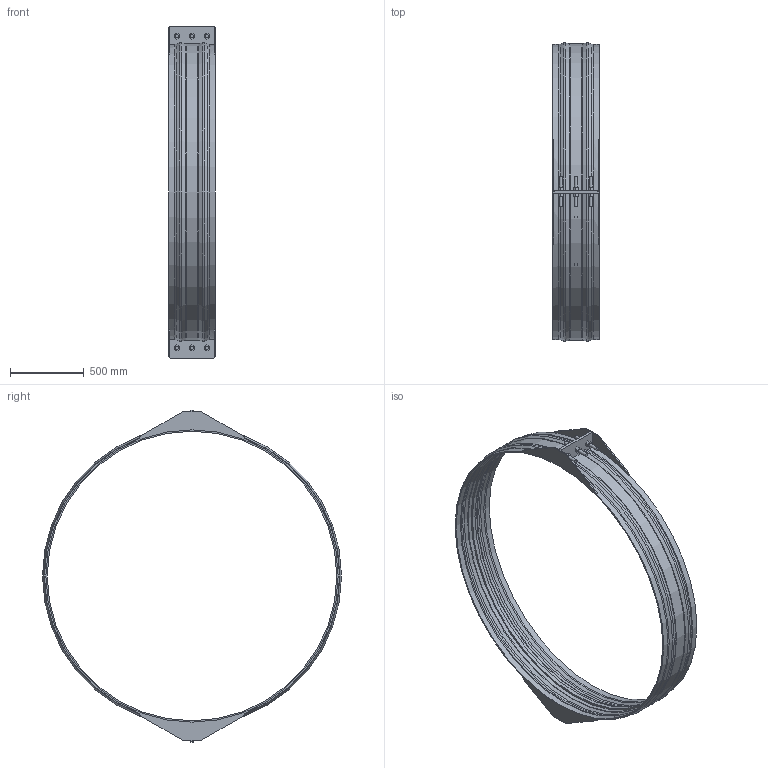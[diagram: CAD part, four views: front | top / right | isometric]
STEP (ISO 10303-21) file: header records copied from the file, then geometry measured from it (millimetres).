
FILE_DESCRIPTION(/* description */ ('VIC RESTRAINED COUPLING STYLE 233 (FLEX) (BRD)','CAx-IF Rec.Pracs.---Representation and Presentation of Product Manufacturing Information (PMI)---4.0---2014-10-13'),/* implementation_level */ '2;1');
FILE_NAME(/* name */ 'C:\Users\Vjadhav\Desktop\CAD for Inventor\Test for STEP\Vivek\Adsk_Inventor_Bolted Sleeve_iParts\STEP\Victaulic_VBSP_Coupling Flexible Restrained_Style 233 (BRD)\Victaulic_VBSP_Coupling Flexible Restrained_Style 233 (BRD)_100psi_78 (1950).stp',/* time_stamp */ '2020-09-24T12:31:04+05:00',/* author */ ('Vjadhav'),/* organization */ ('Victaulic'),/* preprocessor_version */ 'ST-DEVELOPER v17.2',/* originating_system */ 'Autodesk Inventor 2019',/* authorisation */ '');
FILE_SCHEMA (('AP242_MANAGED_MODEL_BASED_3D_ENGINEERING_MIM_LF { 1 0 10303 442 1 1 4 }'));
Length unit declared in the file: inch
Products named in the file (1): Style_233_Type_2_100psi-78.0
Bounding box: 317.5 x 2026.94 x 2250.44 mm (x, y, z)
Volume: 24506206.3 mm3; surface area: 4970546 mm2
Topology: 1 solids, 1 shells, 211 faces, 557 edges, 374 vertices
Faces by surface type: plane 142, cylinder 39, torus 18, cone 12
Full cylindrical faces by diameter (mm): 22.225 x12, 1962.15 x1, 1981.2 x2, 1987.55 x2
Entity records: 7048 total; most frequent: CARTESIAN_POINT 1352, DIRECTION 1127, ORIENTED_EDGE 1114, EDGE_CURVE 557, LINE 389, VECTOR 389, VERTEX_POINT 374, AXIS2_PLACEMENT_3D 369
